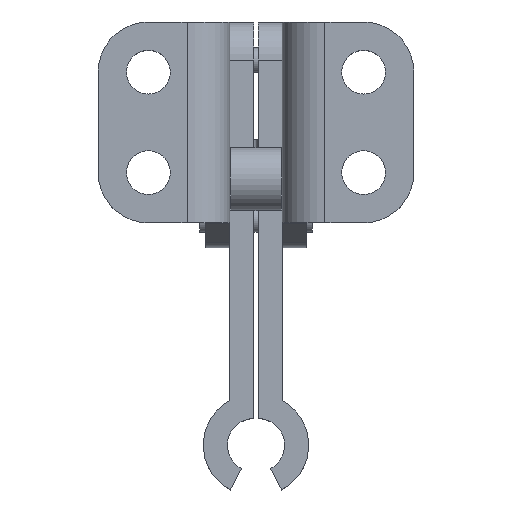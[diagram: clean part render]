
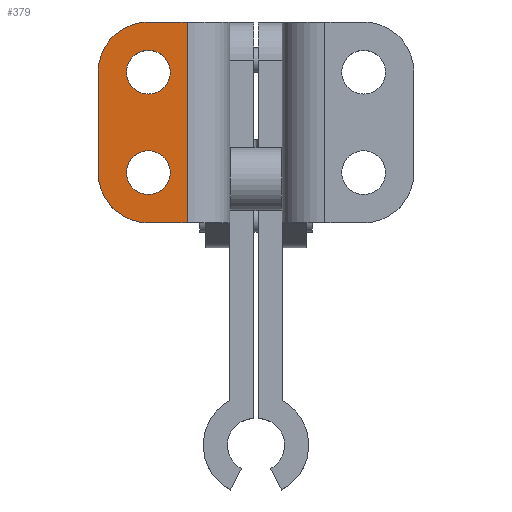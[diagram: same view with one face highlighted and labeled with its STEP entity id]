
A CAD part, top view. The second image highlights one B-rep face of the part: STEP entity #379.
In plain terms, the highlighted planar face has unit normal (0, 0, 1).
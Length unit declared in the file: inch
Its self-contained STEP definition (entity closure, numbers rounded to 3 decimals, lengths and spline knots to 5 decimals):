
#379=ADVANCED_FACE('',(#4515,#4516,#1408),#903,.T.);
#903=PLANE('',#11063);
#1408=FACE_OUTER_BOUND('',#4774,.T.);
#1967=LINE('',#14903,#3260);
#1971=LINE('',#14913,#3264);
#1984=LINE('',#14963,#3277);
#1986=LINE('',#14971,#3279);
#3260=VECTOR('',#12007,1.);
#3264=VECTOR('',#12015,1.);
#3277=VECTOR('',#12064,1.);
#3279=VECTOR('',#12072,1.);
#4515=FACE_BOUND('',#4772,.T.);
#4516=FACE_BOUND('',#4773,.T.);
#4772=EDGE_LOOP('',(#5760));
#4773=EDGE_LOOP('',(#5761));
#4774=EDGE_LOOP('',(#5762,#5763,#5764,#5765,#5766,#5767));
#5760=ORIENTED_EDGE('',*,*,#9494,.F.);
#5761=ORIENTED_EDGE('',*,*,#9495,.F.);
#5762=ORIENTED_EDGE('',*,*,#9464,.F.);
#5763=ORIENTED_EDGE('',*,*,#9496,.T.);
#5764=ORIENTED_EDGE('',*,*,#9469,.T.);
#5765=ORIENTED_EDGE('',*,*,#9497,.T.);
#5766=ORIENTED_EDGE('',*,*,#9492,.F.);
#5767=ORIENTED_EDGE('',*,*,#9498,.T.);
#8406=VERTEX_POINT('',#14902);
#8407=VERTEX_POINT('',#14904);
#8411=VERTEX_POINT('',#14914);
#8412=VERTEX_POINT('',#14915);
#8429=VERTEX_POINT('',#14962);
#8430=VERTEX_POINT('',#14964);
#8431=VERTEX_POINT('',#14968);
#8432=VERTEX_POINT('',#14970);
#9464=EDGE_CURVE('',#8406,#8407,#1967,.T.);
#9469=EDGE_CURVE('',#8411,#8412,#1971,.T.);
#9492=EDGE_CURVE('',#8429,#8430,#1984,.T.);
#9494=EDGE_CURVE('',#8431,#8431,#10818,.T.);
#9495=EDGE_CURVE('',#8432,#8432,#10819,.T.);
#9496=EDGE_CURVE('',#8406,#8411,#1986,.T.);
#9497=EDGE_CURVE('',#8412,#8430,#10820,.T.);
#9498=EDGE_CURVE('',#8429,#8407,#10821,.T.);
#10818=CIRCLE('',#11059,0.109);
#10819=CIRCLE('',#11060,0.109);
#10820=CIRCLE('',#11061,0.25);
#10821=CIRCLE('',#11062,0.25);
#11059=AXIS2_PLACEMENT_3D('',#14967,#12068,#12069);
#11060=AXIS2_PLACEMENT_3D('',#14969,#12070,#12071);
#11061=AXIS2_PLACEMENT_3D('',#14972,#12073,#12074);
#11062=AXIS2_PLACEMENT_3D('',#14973,#12075,#12076);
#11063=AXIS2_PLACEMENT_3D('',#14974,#12077,#12078);
#12007=DIRECTION('',(-1.,0.,0.));
#12015=DIRECTION('',(-1.,0.,0.));
#12064=DIRECTION('',(0.,1.,0.));
#12068=DIRECTION('',(0.,0.,1.));
#12069=DIRECTION('',(-1.,0.,0.));
#12070=DIRECTION('',(0.,0.,1.));
#12071=DIRECTION('',(-1.,0.,0.));
#12072=DIRECTION('',(0.,1.,0.));
#12073=DIRECTION('',(0.,0.,1.));
#12074=DIRECTION('',(-1.,0.,0.));
#12075=DIRECTION('',(0.,0.,1.));
#12076=DIRECTION('',(-1.,0.,0.));
#12077=DIRECTION('',(0.,0.,1.));
#12078=DIRECTION('',(-1.,0.,0.));
#14902=CARTESIAN_POINT('',(-1.231,-0.3914,2.5176));
#14903=CARTESIAN_POINT('',(-1.0184,-0.3914,2.5176));
#14904=CARTESIAN_POINT('',(-1.424,-0.3914,2.5176));
#14913=CARTESIAN_POINT('',(-1.0184,0.6086,2.5176));
#14914=CARTESIAN_POINT('',(-1.231,0.6086,2.5176));
#14915=CARTESIAN_POINT('',(-1.424,0.6086,2.5176));
#14962=CARTESIAN_POINT('',(-1.674,-0.1414,2.5176));
#14963=CARTESIAN_POINT('',(-1.674,-0.3914,2.5176));
#14964=CARTESIAN_POINT('',(-1.674,0.3586,2.5176));
#14967=CARTESIAN_POINT('',(-1.424,0.3586,2.5176));
#14968=CARTESIAN_POINT('',(-1.533,0.3586,2.5176));
#14969=CARTESIAN_POINT('',(-1.424,-0.1414,2.5176));
#14970=CARTESIAN_POINT('',(-1.533,-0.1414,2.5176));
#14971=CARTESIAN_POINT('',(-1.231,-0.3914,2.5176));
#14972=CARTESIAN_POINT('',(-1.424,0.3586,2.5176));
#14973=CARTESIAN_POINT('',(-1.424,-0.1414,2.5176));
#14974=CARTESIAN_POINT('',(-1.0184,-0.3914,2.5176));
